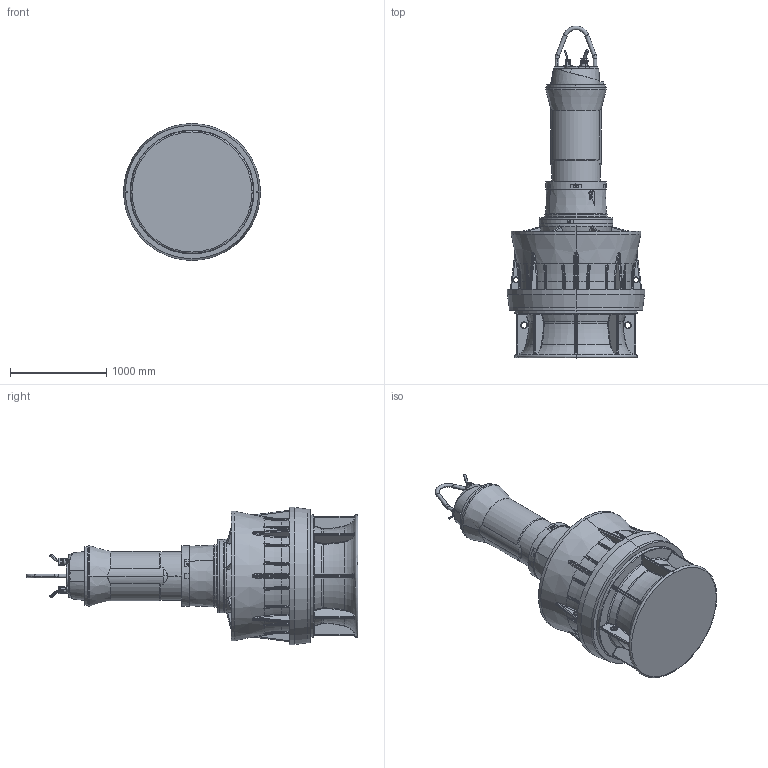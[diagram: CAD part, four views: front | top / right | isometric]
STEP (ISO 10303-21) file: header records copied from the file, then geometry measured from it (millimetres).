
FILE_DESCRIPTION (( 'STEP AP214' ), '1' );
FILE_NAME ('PE6_VUPX1200 G3_STD_A_NG2.STEP', '2017-04-24T11:02:40', ( '' ), ( '' ), 'SwSTEP 2.0', 'SolidWorks 2017', '' );
FILE_SCHEMA (( 'AUTOMOTIVE_DESIGN' ));
Length unit declared in the file: millimetre
Products named in the file (1): PE6_VUPX1200 G3_STD_A_NG2
Bounding box: 1428 x 3457 x 1428 mm (x, y, z)
Volume: 1921630665.6 mm3; surface area: 15659834.8 mm2
Topology: 3 solids, 19 shells, 2886 faces, 6947 edges, 4069 vertices
Faces by surface type: bspline 862, plane 711, cylinder 668, torus 336, cone 235, sphere 74
Entity records: 165413 total; most frequent: CARTESIAN_POINT 73511, ORIENTED_EDGE 13686, DIRECTION 11051, EDGE_CURVE 6843, AXIS2_PLACEMENT_3D 4473, VERTEX_POINT 4069, EDGE_LOOP 3022, UNCERTAINTY_MEASURE_WITH_UNIT 2891
